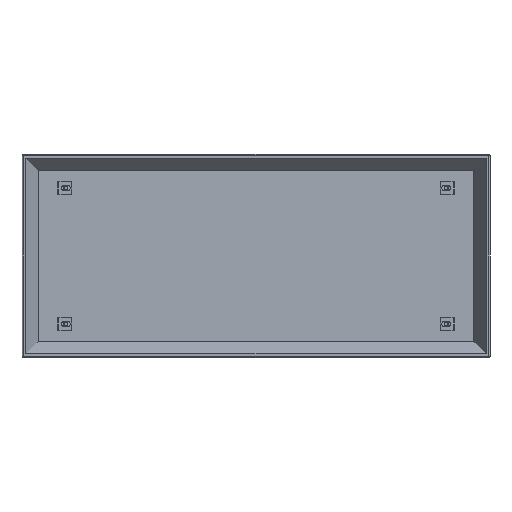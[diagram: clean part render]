
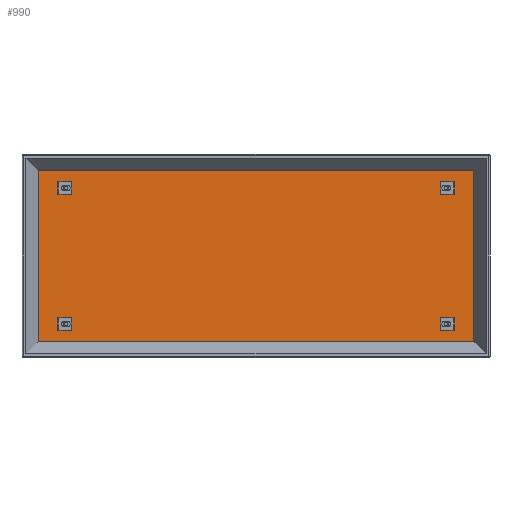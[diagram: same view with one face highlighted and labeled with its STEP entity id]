
A CAD part, front view. The second image highlights one B-rep face of the part: STEP entity #990.
In plain terms, the highlighted planar face has unit normal (0, -1, 0).
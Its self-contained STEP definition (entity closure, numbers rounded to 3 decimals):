
#10 = ORIENTED_EDGE ( 'NONE', *, *, #1349, .F. ) ;
#36 = EDGE_CURVE ( 'NONE', #793, #2511, #142, .T. ) ;
#76 = EDGE_CURVE ( 'NONE', #715, #901, #389, .T. ) ;
#95 = EDGE_CURVE ( 'NONE', #242, #2809, #2469, .T. ) ;
#108 = ORIENTED_EDGE ( 'NONE', *, *, #76, .F. ) ;
#114 = EDGE_CURVE ( 'NONE', #901, #715, #714, .T. ) ;
#142 = CIRCLE ( 'NONE', #1725, 4. ) ;
#225 = VECTOR ( 'NONE', #466, 1000. ) ;
#242 = VERTEX_POINT ( 'NONE', #1196 ) ;
#286 = CARTESIAN_POINT ( 'NONE',  ( 109.569, 68., -84.569 ) ) ;
#293 = LINE ( 'NONE', #304, #2646 ) ;
#304 = CARTESIAN_POINT ( 'NONE',  ( 0., 68., -461.431 ) ) ;
#322 = CARTESIAN_POINT ( 'NONE',  ( 1043.431, 68., -422.431 ) ) ;
#327 = VERTEX_POINT ( 'NONE', #534 ) ;
#333 = VERTEX_POINT ( 'NONE', #767 ) ;
#360 = CIRCLE ( 'NONE', #914, 4. ) ;
#389 = CIRCLE ( 'NONE', #585, 4. ) ;
#443 = DIRECTION ( 'NONE',  ( 0., 0., -1. ) ) ;
#446 = CARTESIAN_POINT ( 'NONE',  ( 1111.431, 68., -461.431 ) ) ;
#466 = DIRECTION ( 'NONE',  ( 1., 0., 0. ) ) ;
#481 = AXIS2_PLACEMENT_3D ( 'NONE', #658, #1718, #883 ) ;
#497 = DIRECTION ( 'NONE',  ( 0., -1., 0. ) ) ;
#508 = FACE_BOUND ( 'NONE', #2300, .T. ) ;
#529 = CARTESIAN_POINT ( 'NONE',  ( 1111.431, 68., 0. ) ) ;
#534 = CARTESIAN_POINT ( 'NONE',  ( 1043.431, 68., -88.569 ) ) ;
#585 = AXIS2_PLACEMENT_3D ( 'NONE', #286, #497, #1822 ) ;
#624 = AXIS2_PLACEMENT_3D ( 'NONE', #1304, #854, #443 ) ;
#627 = CARTESIAN_POINT ( 'NONE',  ( 109.569, 68., -418.431 ) ) ;
#649 = AXIS2_PLACEMENT_3D ( 'NONE', #2027, #2692, #693 ) ;
#652 = FACE_BOUND ( 'NONE', #699, .T. ) ;
#658 = CARTESIAN_POINT ( 'NONE',  ( 1043.431, 68., -84.569 ) ) ;
#681 = EDGE_CURVE ( 'NONE', #2809, #333, #2687, .T. ) ;
#693 = DIRECTION ( 'NONE',  ( 0., 0., -1. ) ) ;
#699 = EDGE_LOOP ( 'NONE', ( #1778, #2406 ) ) ;
#714 = CIRCLE ( 'NONE', #649, 4. ) ;
#715 = VERTEX_POINT ( 'NONE', #905 ) ;
#724 = LINE ( 'NONE', #529, #2788 ) ;
#725 = ORIENTED_EDGE ( 'NONE', *, *, #1706, .F. ) ;
#756 = VERTEX_POINT ( 'NONE', #446 ) ;
#767 = CARTESIAN_POINT ( 'NONE',  ( 1111.431, 68., -41.569 ) ) ;
#793 = VERTEX_POINT ( 'NONE', #2240 ) ;
#806 = ORIENTED_EDGE ( 'NONE', *, *, #1054, .F. ) ;
#823 = FACE_OUTER_BOUND ( 'NONE', #2357, .T. ) ;
#837 = CARTESIAN_POINT ( 'NONE',  ( 0., 68., -41.569 ) ) ;
#854 = DIRECTION ( 'NONE',  ( 0., -1., 0. ) ) ;
#883 = DIRECTION ( 'NONE',  ( 0., 0., 1. ) ) ;
#891 = CIRCLE ( 'NONE', #624, 4. ) ;
#901 = VERTEX_POINT ( 'NONE', #2698 ) ;
#905 = CARTESIAN_POINT ( 'NONE',  ( 109.569, 68., -80.569 ) ) ;
#914 = AXIS2_PLACEMENT_3D ( 'NONE', #1014, #2769, #1655 ) ;
#940 = AXIS2_PLACEMENT_3D ( 'NONE', #627, #2835, #1729 ) ;
#985 = PLANE ( 'NONE',  #1568 ) ;
#990 = ADVANCED_FACE ( 'NONE', ( #652, #2439, #1412, #508, #823 ), #985, .T. ) ;
#1014 = CARTESIAN_POINT ( 'NONE',  ( 1043.431, 68., -84.569 ) ) ;
#1053 = CARTESIAN_POINT ( 'NONE',  ( 1043.431, 68., -414.431 ) ) ;
#1054 = EDGE_CURVE ( 'NONE', #756, #242, #293, .T. ) ;
#1085 = EDGE_CURVE ( 'NONE', #2607, #327, #360, .T. ) ;
#1137 = CARTESIAN_POINT ( 'NONE',  ( 109.569, 68., -418.431 ) ) ;
#1140 = EDGE_CURVE ( 'NONE', #333, #756, #724, .T. ) ;
#1192 = CARTESIAN_POINT ( 'NONE',  ( 0., 68., 0. ) ) ;
#1196 = CARTESIAN_POINT ( 'NONE',  ( 41.569, 68., -461.431 ) ) ;
#1199 = VECTOR ( 'NONE', #2463, 1000. ) ;
#1203 = DIRECTION ( 'NONE',  ( -1., 0., 0. ) ) ;
#1229 = CIRCLE ( 'NONE', #481, 4. ) ;
#1294 = ORIENTED_EDGE ( 'NONE', *, *, #95, .F. ) ;
#1301 = ORIENTED_EDGE ( 'NONE', *, *, #1085, .F. ) ;
#1304 = CARTESIAN_POINT ( 'NONE',  ( 1043.431, 68., -418.431 ) ) ;
#1349 = EDGE_CURVE ( 'NONE', #327, #2607, #1229, .T. ) ;
#1368 = EDGE_CURVE ( 'NONE', #1975, #2048, #891, .T. ) ;
#1387 = EDGE_CURVE ( 'NONE', #2511, #793, #2017, .T. ) ;
#1408 = CIRCLE ( 'NONE', #2416, 4. ) ;
#1412 = FACE_BOUND ( 'NONE', #2440, .T. ) ;
#1480 = CARTESIAN_POINT ( 'NONE',  ( 1043.431, 68., -80.569 ) ) ;
#1568 = AXIS2_PLACEMENT_3D ( 'NONE', #1192, #1604, #2259 ) ;
#1597 = CARTESIAN_POINT ( 'NONE',  ( 41.569, 68., 0. ) ) ;
#1604 = DIRECTION ( 'NONE',  ( 0., -1., 0. ) ) ;
#1606 = DIRECTION ( 'NONE',  ( 0., -1., 0. ) ) ;
#1625 = DIRECTION ( 'NONE',  ( 0., 0., -1. ) ) ;
#1655 = DIRECTION ( 'NONE',  ( 0., 0., 1. ) ) ;
#1706 = EDGE_CURVE ( 'NONE', #2048, #1975, #1408, .T. ) ;
#1718 = DIRECTION ( 'NONE',  ( 0., -1., 0. ) ) ;
#1725 = AXIS2_PLACEMENT_3D ( 'NONE', #1137, #1606, #2493 ) ;
#1729 = DIRECTION ( 'NONE',  ( 0., 0., 1. ) ) ;
#1778 = ORIENTED_EDGE ( 'NONE', *, *, #1387, .F. ) ;
#1822 = DIRECTION ( 'NONE',  ( 0., 0., -1. ) ) ;
#1823 = DIRECTION ( 'NONE',  ( 0., -1., 0. ) ) ;
#1829 = CARTESIAN_POINT ( 'NONE',  ( 1043.431, 68., -418.431 ) ) ;
#1975 = VERTEX_POINT ( 'NONE', #322 ) ;
#2017 = CIRCLE ( 'NONE', #940, 4. ) ;
#2027 = CARTESIAN_POINT ( 'NONE',  ( 109.569, 68., -84.569 ) ) ;
#2048 = VERTEX_POINT ( 'NONE', #1053 ) ;
#2073 = ORIENTED_EDGE ( 'NONE', *, *, #1140, .F. ) ;
#2169 = CARTESIAN_POINT ( 'NONE',  ( 109.569, 68., -414.431 ) ) ;
#2191 = EDGE_LOOP ( 'NONE', ( #725, #2784 ) ) ;
#2240 = CARTESIAN_POINT ( 'NONE',  ( 109.569, 68., -422.431 ) ) ;
#2259 = DIRECTION ( 'NONE',  ( 0., 0., -1. ) ) ;
#2300 = EDGE_LOOP ( 'NONE', ( #108, #2380 ) ) ;
#2324 = DIRECTION ( 'NONE',  ( 0., 0., -1. ) ) ;
#2357 = EDGE_LOOP ( 'NONE', ( #1294, #806, #2073, #2682 ) ) ;
#2380 = ORIENTED_EDGE ( 'NONE', *, *, #114, .F. ) ;
#2406 = ORIENTED_EDGE ( 'NONE', *, *, #36, .F. ) ;
#2413 = CARTESIAN_POINT ( 'NONE',  ( 41.569, 68., -41.569 ) ) ;
#2416 = AXIS2_PLACEMENT_3D ( 'NONE', #1829, #1823, #1625 ) ;
#2439 = FACE_BOUND ( 'NONE', #2191, .T. ) ;
#2440 = EDGE_LOOP ( 'NONE', ( #1301, #10 ) ) ;
#2463 = DIRECTION ( 'NONE',  ( 0., 0., 1. ) ) ;
#2469 = LINE ( 'NONE', #1597, #1199 ) ;
#2493 = DIRECTION ( 'NONE',  ( 0., 0., 1. ) ) ;
#2511 = VERTEX_POINT ( 'NONE', #2169 ) ;
#2607 = VERTEX_POINT ( 'NONE', #1480 ) ;
#2646 = VECTOR ( 'NONE', #1203, 1000. ) ;
#2682 = ORIENTED_EDGE ( 'NONE', *, *, #681, .F. ) ;
#2687 = LINE ( 'NONE', #837, #225 ) ;
#2692 = DIRECTION ( 'NONE',  ( 0., -1., 0. ) ) ;
#2698 = CARTESIAN_POINT ( 'NONE',  ( 109.569, 68., -88.569 ) ) ;
#2769 = DIRECTION ( 'NONE',  ( 0., -1., 0. ) ) ;
#2784 = ORIENTED_EDGE ( 'NONE', *, *, #1368, .F. ) ;
#2788 = VECTOR ( 'NONE', #2324, 1000. ) ;
#2809 = VERTEX_POINT ( 'NONE', #2413 ) ;
#2835 = DIRECTION ( 'NONE',  ( 0., -1., 0. ) ) ;
